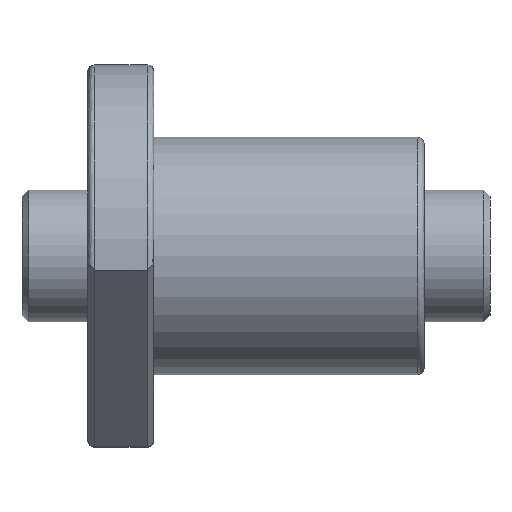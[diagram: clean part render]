
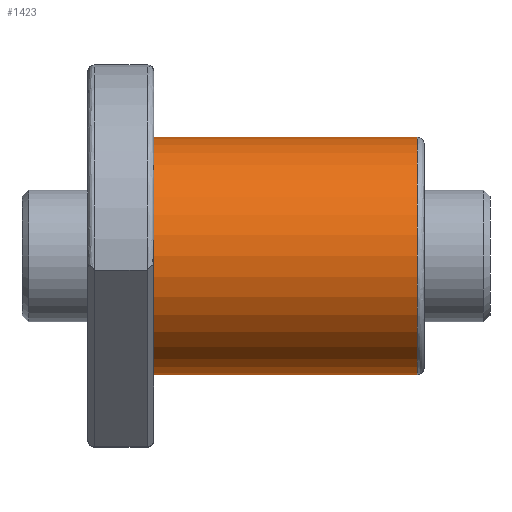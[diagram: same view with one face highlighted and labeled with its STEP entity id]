
A CAD part, front view. The second image highlights one B-rep face of the part: STEP entity #1423.
In plain terms, the highlighted cylindrical face has radius 18 mm (diameter 36 mm), a partial arc.
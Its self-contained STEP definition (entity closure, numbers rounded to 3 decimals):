
#146 = CARTESIAN_POINT ( 'NONE',  ( 10., 0., 18. ) ) ;
#183 = VECTOR ( 'NONE', #4180, 1000. ) ;
#357 = CIRCLE ( 'NONE', #1792, 18. ) ;
#971 = ORIENTED_EDGE ( 'NONE', *, *, #2023, .T. ) ;
#982 = VERTEX_POINT ( 'NONE', #4477 ) ;
#1065 = LINE ( 'NONE', #2136, #183 ) ;
#1068 = EDGE_CURVE ( 'NONE', #982, #2310, #1065, .T. ) ;
#1268 = EDGE_LOOP ( 'NONE', ( #3837, #3681, #1416, #971 ) ) ;
#1376 = DIRECTION ( 'NONE',  ( 0., 0., 1. ) ) ;
#1416 = ORIENTED_EDGE ( 'NONE', *, *, #4275, .T. ) ;
#1423 = ADVANCED_FACE ( 'NONE', ( #2050 ), #5067, .T. ) ;
#1792 = AXIS2_PLACEMENT_3D ( 'NONE', #4188, #3382, #1376 ) ;
#1915 = DIRECTION ( 'NONE',  ( -1., 0., 0. ) ) ;
#1947 = EDGE_CURVE ( 'NONE', #982, #3273, #5130, .T. ) ;
#2023 = EDGE_CURVE ( 'NONE', #3473, #2310, #357, .T. ) ;
#2050 = FACE_OUTER_BOUND ( 'NONE', #1268, .T. ) ;
#2126 = DIRECTION ( 'NONE',  ( 0., 0., 1. ) ) ;
#2136 = CARTESIAN_POINT ( 'NONE',  ( 51., 0., -18. ) ) ;
#2236 = VECTOR ( 'NONE', #1915, 1000. ) ;
#2310 = VERTEX_POINT ( 'NONE', #4834 ) ;
#2500 = CARTESIAN_POINT ( 'NONE',  ( 50., 0., 18. ) ) ;
#3273 = VERTEX_POINT ( 'NONE', #2500 ) ;
#3289 = DIRECTION ( 'NONE',  ( -1., 0., 0. ) ) ;
#3382 = DIRECTION ( 'NONE',  ( 1., 0., 0. ) ) ;
#3473 = VERTEX_POINT ( 'NONE', #146 ) ;
#3602 = CARTESIAN_POINT ( 'NONE',  ( 51., 0., 18. ) ) ;
#3630 = DIRECTION ( 'NONE',  ( -1., 0., 0. ) ) ;
#3681 = ORIENTED_EDGE ( 'NONE', *, *, #1947, .T. ) ;
#3811 = LINE ( 'NONE', #3602, #2236 ) ;
#3837 = ORIENTED_EDGE ( 'NONE', *, *, #1068, .F. ) ;
#4032 = AXIS2_PLACEMENT_3D ( 'NONE', #4519, #3289, #2126 ) ;
#4180 = DIRECTION ( 'NONE',  ( -1., 0., 0. ) ) ;
#4188 = CARTESIAN_POINT ( 'NONE',  ( 10., 0., 0. ) ) ;
#4275 = EDGE_CURVE ( 'NONE', #3273, #3473, #3811, .T. ) ;
#4373 = CARTESIAN_POINT ( 'NONE',  ( 51., 0., 0. ) ) ;
#4477 = CARTESIAN_POINT ( 'NONE',  ( 50., 0., -18. ) ) ;
#4519 = CARTESIAN_POINT ( 'NONE',  ( 50., 0., 0. ) ) ;
#4739 = DIRECTION ( 'NONE',  ( 0., 0., 1. ) ) ;
#4834 = CARTESIAN_POINT ( 'NONE',  ( 10., 0., -18. ) ) ;
#4871 = AXIS2_PLACEMENT_3D ( 'NONE', #4373, #3630, #4739 ) ;
#5067 = CYLINDRICAL_SURFACE ( 'NONE', #4871, 18. ) ;
#5130 = CIRCLE ( 'NONE', #4032, 18. ) ;
